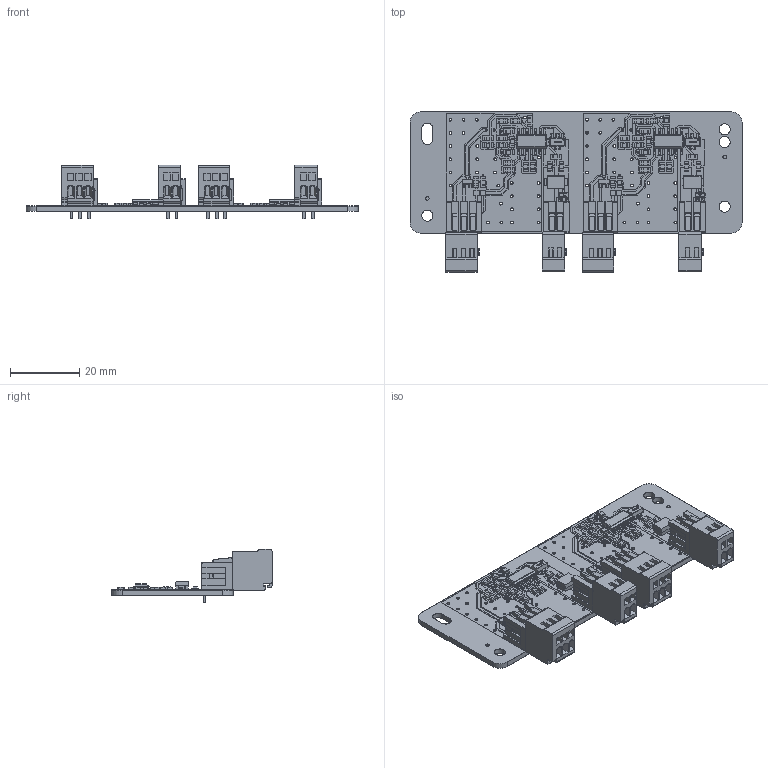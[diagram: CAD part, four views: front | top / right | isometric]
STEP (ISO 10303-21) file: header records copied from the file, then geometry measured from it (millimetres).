
FILE_DESCRIPTION(/* description */ ('PCB Converter PT100 to 4-20mA 2ch 0-100C'),/* implementation_level */ '2;1');
FILE_NAME(/* name */ '119783 v6.step',/* time_stamp */ '2024-10-08T13:02:28+02:00',/* author */ (''),/* organization */ (''),/* preprocessor_version */ 'ST-DEVELOPER v20',/* originating_system */ 'Autodesk Translation Framework v13.20.0.188',/* authorisation */ '');
FILE_SCHEMA (('AUTOMOTIVE_DESIGN { 1 0 10303 214 3 1 1 }'));
Products named in the file (41): 119783; 100040; 100894; 119874; Board; Packages; P-733-362; 100041.Model[V0] v1; P-733-363; 733-363 v1; SOIC14; XTR105UA v1; BODY-SO; LEAD-SO; SOT-89; FCX690BTA v1; DXTA42-13; Diodes_Logo; SOT23; SOT23_1; 158819.f3d ; SOT23-3; BZX84-C2V7,215 v1; SOT23-3_1; BZX84-C2V7,215 v1_1; SOT23 lower body; SOT23 Lead; SOT23 Upper body; C0805; DIONM5336X250N_2; SMBJ40CA-13-F v1; Chamfer; FilletPin1; FilletPin2; C0805_2; BLM21AG151SN1D v1; R0805; 1-copper; 16-copper; 1-soldermask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
Assembly tree (103 placements, depth 6):
  119783
    100040  x2
    100894  x2
    119874
      Board
      Packages
        P-733-362  x2
          100041.Model[V0] v1
        P-733-363  x2
          733-363 v1
        SOIC14  x2
          XTR105UA v1
            BODY-SO
            LEAD-SO  x14
        SOT-89  x2
          FCX690BTA v1
            DXTA42-13
            Diodes_Logo
        SOT23
          158819.f3d 
        SOT23_1
          158819.f3d 
        SOT23-3
          BZX84-C2V7,215 v1
            SOT23 lower body
            SOT23 Lead  x3
            SOT23 Upper body
        SOT23-3_1
          BZX84-C2V7,215 v1_1
            SOT23 lower body
            SOT23 Lead  x3
            SOT23 Upper body
        C0805  x12
        R0805  x22
        DIONM5336X250N_2  x2
          SMBJ40CA-13-F v1
            Chamfer
            FilletPin1
            FilletPin2
        C0805_2  x4
          BLM21AG151SN1D v1
      1-copper
      16-copper
      1-soldermask
      16-soldermask
Bounding box: 96 x 46.28 x 15.43 mm (x, y, z)
Volume: 11454.7 mm3; surface area: 37385.9 mm2
Topology: 475 solids, 475 shells, 7812 faces, 20018 edges, 13186 vertices
Faces by surface type: plane 5926, cylinder 1570, bspline 220, sphere 76, cone 20
Full cylindrical faces by diameter (mm): 0.104 x2, 0.35 x4, 0.438 x96, 0.508 x112, 0.743 x180, 0.813 x240, 1.03 x50, 1.1 x40, 1.2 x10, 3.2 x12
Entity records: 175405 total; most frequent: CARTESIAN_POINT 31458, ORIENTED_EDGE 29072, DIRECTION 28157, EDGE_CURVE 14536, LINE 11885, VECTOR 11885, VERTEX_POINT 9635, AXIS2_PLACEMENT_3D 8136
